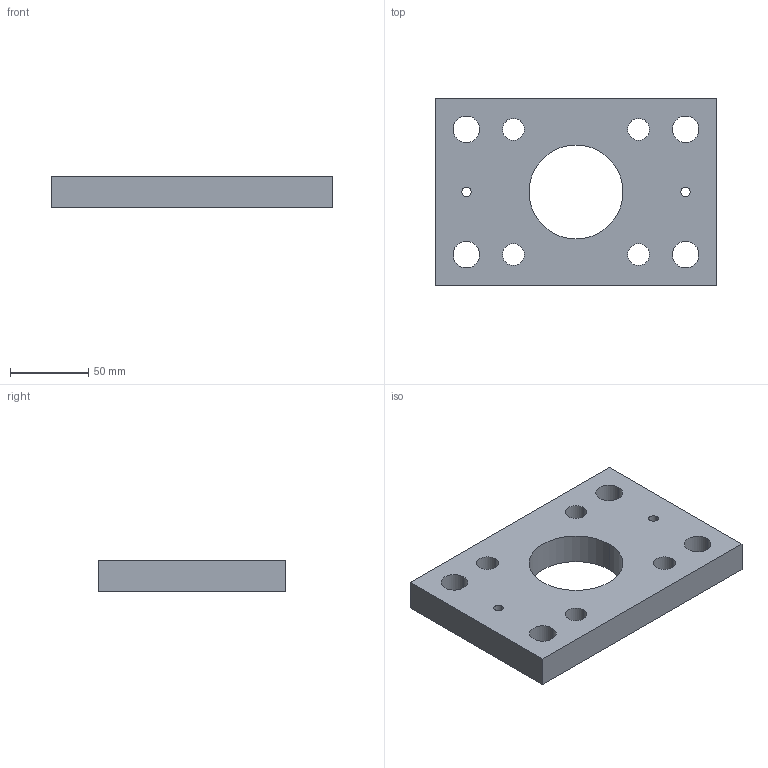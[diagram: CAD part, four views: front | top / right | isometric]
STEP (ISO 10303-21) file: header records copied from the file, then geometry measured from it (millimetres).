
FILE_DESCRIPTION (( 'STEP AP203' ), '1' );
FILE_NAME ('3DPS60.STEP', '2002-11-20T10:12:53', ( 'Francesc' ), ( 'propia' ), 'SwSTEP 2.0', 'SolidWorks 2001039', '' );
FILE_SCHEMA (( 'CONFIG_CONTROL_DESIGN' ));
Length unit declared in the file: millimetre
Products named in the file (1): 2
Bounding box: 180 x 120 x 20 mm (x, y, z)
Volume: 343851.6 mm3; surface area: 58700.3 mm2
Topology: 1 solids, 1 shells, 28 faces, 78 edges, 52 vertices
Faces by surface type: cylinder 22, plane 6
Entity records: 1047 total; most frequent: DIRECTION 180, CARTESIAN_POINT 159, ORIENTED_EDGE 156, EDGE_CURVE 78, AXIS2_PLACEMENT_3D 73, VERTEX_POINT 52, EDGE_LOOP 50, CIRCLE 44
